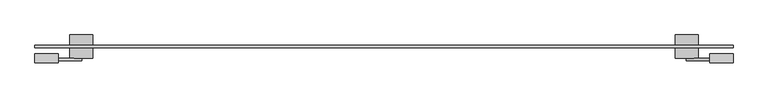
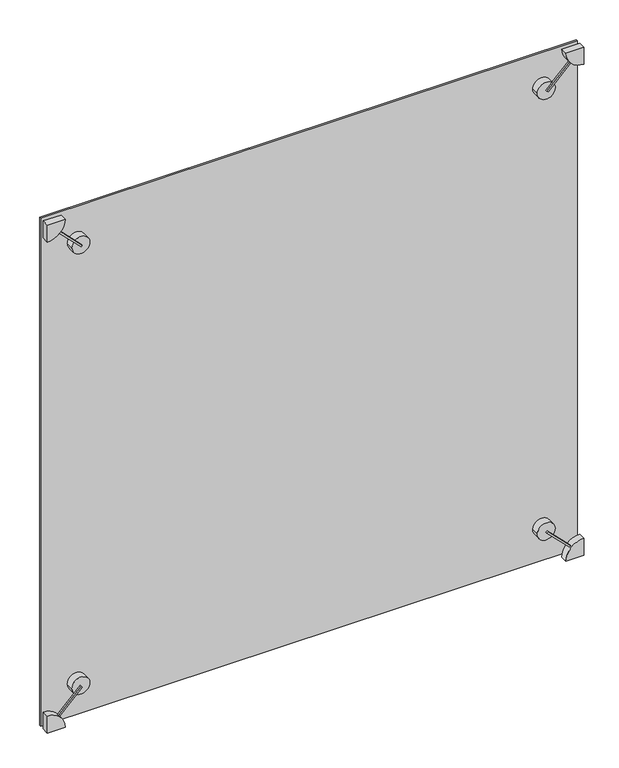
"""IFC4 building model written with IfcOpenShell, lengths in millimetres: plate geometry, 点爪式幕墙嵌板 : 点爪式幕墙嵌板."""

from ifc_helpers import new_model, si_unit, point, frame, frame_2d, origin, origin_with_axes, place, context, project, spatial, polyline, circle_curve, trimmed, segment, composite_curve, outline, extrude, source, transform, mapped, element, save
from ifc_brep_helpers import plane_surface, cylinder_surface, advanced_brep


def plate_63dfc3b5(model_context):
    return source(origin(), model_context, "Body", "SolidModel", [
        extrude(outline(polyline([(0.0, -10.0), (0.0, 0.0), (10.0, 0.0), (10.0, -10.0), (0.0, -10.0)])), frame((-1433.7667022, -60.0, 73.3043656), z_axis=(0.7071067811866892, 0.0, 0.7071067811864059), x_axis=(0.0, 1.0, 0.0)), (0.0, 0.0, 1.0), 181.331972),
        extrude(outline(composite_curve([segment(trimmed(circle_curve(frame_2d((0.0, -1500.0)), 100.0), [point((0.0, -1400.0))], [point((100.0, -1500.0))], False, "CARTESIAN"), True, "CONTINUOUS"), segment(polyline([(100.0, -1500.0), (0.0, -1500.0), (0.0, -1400.0)]), True, "CONTINUOUS")], self_intersect=False)), frame((0.0, -70.0, 0.0), z_axis=(0.0, 1.0, 0.0), x_axis=(0.0, 0.0, 1.0)), (0.0, 0.0, 1.0), 40.0),
        extrude(outline(composite_curve([segment(trimmed(circle_curve(frame_2d((199.0051024, -1300.9948976)), 50.0), [point((199.0051024, -1250.9948976))], [point((199.0051024, -1350.9948976))], False, "CARTESIAN"), True, "CONTINUOUS"), segment(trimmed(circle_curve(frame_2d((199.0051024, -1300.9948976)), 50.0), [point((199.0051024, -1350.9948976))], [point((199.0051024, -1250.9948976))], False, "CARTESIAN"), True, "CONTINUOUS")], self_intersect=False)), frame((0.0, -50.0, 0.0), z_axis=(0.0, 1.0, 0.0), x_axis=(0.0, 0.0, 1.0)), (0.0, 0.0, 1.0), 100.0),
        extrude(outline(polyline([(0.0, -181.3319719), (0.0, 0.0), (10.0, 0.0), (10.0, -181.3319719), (0.0, -181.3319719)])), frame((1298.4745674, -60.0, 194.4543648), z_axis=(0.7071067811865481, 0.0, 0.707106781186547), x_axis=(0.0, 1.0, 0.0)), (0.0, 0.0, 1.0), 10.0),
        extrude(outline(composite_curve([segment(polyline([(0.0, 1400.0), (0.0, 1500.0), (100.0, 1500.0)]), True, "CONTINUOUS"), segment(trimmed(circle_curve(frame_2d((0.0, 1500.0)), 100.0), [point((100.0, 1500.0))], [point((0.0, 1400.0))], False, "CARTESIAN"), True, "CONTINUOUS")], self_intersect=False)), frame((0.0, -70.0, 0.0), z_axis=(0.0, 1.0, 0.0), x_axis=(0.0, 0.0, 1.0)), (0.0, 0.0, 1.0), 40.0),
        extrude(outline(composite_curve([segment(trimmed(circle_curve(frame_2d((199.0051024, 1300.9948976)), 50.0), [point((199.0051024, 1250.9948976))], [point((199.0051024, 1350.9948976))], False, "CARTESIAN"), True, "CONTINUOUS"), segment(trimmed(circle_curve(frame_2d((199.0051024, 1300.9948976)), 50.0), [point((199.0051024, 1350.9948976))], [point((199.0051024, 1250.9948976))], False, "CARTESIAN"), True, "CONTINUOUS")], self_intersect=False)), frame((0.0, -50.0, 0.0), z_axis=(0.0, 1.0, 0.0), x_axis=(0.0, 0.0, 1.0)), (0.0, 0.0, 1.0), 100.0),
        extrude(outline(polyline([(0.0, -181.3319719), (0.0, 0.0), (10.0, 0.0), (10.0, -181.3319719), (0.0, -181.3319719)])), frame((-1433.7667022, -60.0, 2926.6956344), z_axis=(0.7071067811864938, 0.0, 0.7071067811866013), x_axis=(0.0, 1.0, 0.0)), (0.0, 0.0, 1.0), 10.0),
        extrude(outline(composite_curve([segment(polyline([(3000.0, -1400.0), (3000.0, -1500.0), (2900.0, -1500.0)]), True, "CONTINUOUS"), segment(trimmed(circle_curve(frame_2d((3000.0, -1500.0)), 100.0), [point((2900.0, -1500.0))], [point((3000.0, -1400.0))], False, "CARTESIAN"), True, "CONTINUOUS")], self_intersect=False)), frame((0.0, -70.0, 0.0), z_axis=(0.0, 1.0, 0.0), x_axis=(0.0, 0.0, 1.0)), (0.0, 0.0, 1.0), 40.0),
        extrude(outline(composite_curve([segment(trimmed(circle_curve(frame_2d((2800.9948976, -1300.9948976)), 50.0), [point((2800.9948976, -1250.9948976))], [point((2800.9948976, -1350.9948976))], False, "CARTESIAN"), True, "CONTINUOUS"), segment(trimmed(circle_curve(frame_2d((2800.9948976, -1300.9948976)), 50.0), [point((2800.9948976, -1350.9948976))], [point((2800.9948976, -1250.9948976))], False, "CARTESIAN"), True, "CONTINUOUS")], self_intersect=False)), frame((0.0, -50.0, 0.0), z_axis=(0.0, 1.0, 0.0), x_axis=(0.0, 0.0, 1.0)), (0.0, 0.0, 1.0), 100.0),
        advanced_brep(
        [(1250.9948976, -50.0, 2800.9948976), (1350.9948976, -50.0, 2800.9948976), (1339.7085497, -50.0, 2832.6374819), (1305.5456352, -50.0, 2798.4745674), (1298.4745674, -50.0, 2805.5456352), (1332.6374819, -50.0, 2839.7085497), (1250.9948976, 50.0, 2800.9948976), (1350.9948976, 50.0, 2800.9948976), (1298.4745674, -60.0, 2805.5456352), (1305.5456352, -60.0, 2798.4745674), (1432.9132994, -60.0, 2925.8422316), (1425.8422316, -60.0, 2932.9132994), (1425.8422316, -50.0, 2932.9132994), (1432.9132994, -50.0, 2925.8422316), (1400.0, -70.0, 3000.0), (1500.0, -70.0, 2900.0), (1500.0, -70.0, 3000.0), (1400.0, -30.0, 3000.0), (1500.0, -30.0, 3000.0), (1500.0, -30.0, 2900.0)],
        [
            (0, 1, circle_curve(frame((1300.9948976, -50.0, 2800.9948976), z_axis=(0.0, -1.0, 0.0), x_axis=(1.0, 0.0, 0.0)), 50.0)),
            (1, 2, circle_curve(frame((1300.9948976, -50.0, 2800.9948976), z_axis=(0.0, -1.0, 0.0), x_axis=(1.0, 0.0, 0.0)), 50.0)),
            (2, 3),
            (3, 4),
            (4, 5),
            (5, 0, circle_curve(frame((1300.9948976, -50.0, 2800.9948976), z_axis=(0.0, -1.0, 0.0), x_axis=(1.0, 0.0, 0.0)), 50.0)),
            (6, 7, circle_curve(frame((1300.9948976, 50.0, 2800.9948976), z_axis=(0.0, 1.0, 0.0), x_axis=(1.0, 0.0, 0.0)), 50.0)),
            (7, 6, circle_curve(frame((1300.9948976, 50.0, 2800.9948976), z_axis=(0.0, 1.0, 0.0), x_axis=(1.0, 0.0, 0.0)), 50.0)),
            (0, 6),
            (7, 1),
            (5, 2, circle_curve(frame((1300.9948976, -50.0, 2800.9948976), z_axis=(0.0, 1.0, 0.0), x_axis=(1.0, 0.0, 0.0)), 50.0)),
            (8, 9),
            (9, 10),
            (10, 11, circle_curve(frame((1500.0, -60.0, 3000.0), z_axis=(0.0, 1.0, 0.0), x_axis=(1.0, 0.0, 0.0)), 100.0)),
            (11, 8),
            (5, 12),
            (12, 13, circle_curve(frame((1500.0, -50.0, 3000.0), z_axis=(0.0, -1.0, 0.0), x_axis=(1.0, 0.0, 0.0)), 100.0)),
            (13, 2),
            (4, 8),
            (11, 12),
            (3, 9),
            (13, 10),
            (14, 15, circle_curve(frame((1500.0, -70.0, 3000.0), z_axis=(0.0, -1.0, 0.0), x_axis=(1.0, 0.0, 0.0)), 100.0)),
            (15, 16),
            (16, 14),
            (17, 18),
            (18, 19),
            (19, 17, circle_curve(frame((1500.0, -30.0, 3000.0), z_axis=(0.0, 1.0, 0.0), x_axis=(1.0, 0.0, 0.0)), 100.0)),
            (14, 17),
            (19, 15),
            (18, 16),
        ],
        [
            plane_surface(frame((1350.9948976, -50.0, 2800.9948976), z_axis=(0.0, -1.0, 0.0), x_axis=(0.0, 0.0, 1.0))),
            plane_surface(frame((1350.9948976, 50.0, 2800.9948976), z_axis=(0.0, 1.0, 0.0), x_axis=(0.0, 0.0, -1.0))),
            cylinder_surface(frame((1300.9948976, 50.0, 2800.9948976), z_axis=(0.0, -1.0, 0.0), x_axis=(1.0, 0.0, 0.0)), 50.0),
            plane_surface(frame((1298.4745674, -60.0, 2805.5456352), z_axis=(0.0, -1.0000000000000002, 0.0), x_axis=(-0.7071067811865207, 0.0, -0.7071067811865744))),
            plane_surface(frame((1298.4745674, -50.0, 2805.5456352), z_axis=(0.0, 1.0000000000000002, 0.0), x_axis=(0.7071067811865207, 0.0, 0.7071067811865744))),
            plane_surface(frame((1426.6956344, -60.0, 2933.7667022), z_axis=(-0.7071067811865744, 0.0, 0.7071067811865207), x_axis=(0.0, 1.0, 0.0))),
            plane_surface(frame((1298.4745674, -60.0, 2805.5456352), z_axis=(-0.7071067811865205, 0.0, -0.7071067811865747), x_axis=(0.0, 1.0, 0.0))),
            plane_surface(frame((1305.5456352, -60.0, 2798.4745674), z_axis=(0.7071067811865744, 0.0, -0.7071067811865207), x_axis=(0.0, 1.0, 0.0))),
            plane_surface(frame((1600.0, -70.0, 3000.0), z_axis=(0.0, -1.0, 0.0), x_axis=(0.0, 0.0, 1.0))),
            plane_surface(frame((1600.0, -30.0, 3000.0), z_axis=(0.0, 1.0, 0.0), x_axis=(0.0, 0.0, -1.0))),
            cylinder_surface(frame((1500.0, -30.0, 3000.0), z_axis=(0.0, -1.0, 0.0), x_axis=(1.0, 0.0, 0.0)), 100.0),
            plane_surface(frame((1500.0, -70.0, 2900.0), z_axis=(1.0, 0.0, 0.0), x_axis=(0.0, 1.0, 0.0))),
            plane_surface(frame((1500.0, -70.0, 3000.0), z_axis=(0.0, 0.0, 1.0), x_axis=(0.0, 1.0, 0.0))),
        ],
        [
            (0, [[1, 2, 3, 4, 5, 6]]),
            (1, [[7, 8]]),
            (2, [[-1, 9, -8, 10]]),
            (2, [[-7, -9, -6, 11, -2, -10]]),
            (3, [[12, 13, 14, 15]]),
            (4, [[-11, 16, 17, 18]]),
            (5, [[19, -15, 20, -16, -5]]),
            (6, [[-12, -19, -4, 21]]),
            (7, [[-21, -3, -18, 22, -13]]),
            (8, [[23, 24, 25]]),
            (9, [[26, 27, 28]]),
            (10, [[-23, 29, -28, 30], [-14, -22, -17, -20]]),
            (11, [[-24, -30, -27, 31]]),
            (12, [[-25, -31, -26, -29]]),
        ],
    ),
        extrude(outline(polyline([(1500.0, 5.0), (1500.0, -5.0), (-1500.0, -5.0), (-1500.0, 5.0), (1500.0, 5.0)])), origin_with_axes(), (0.0, 0.0, 1.0), 3000.0),
    ])


if __name__ == "__main__":
    model = new_model("IFC4")
    model_context = context("Model", 3, world=origin())
    ifc_project = project(units=[si_unit("LENGTHUNIT", "METRE", prefix="MILLI")], contexts=[model_context])
    site = spatial("IfcSite", under=ifc_project)
    building = spatial("IfcBuilding", under=site)
    placement = place(None, origin())
    plate_shape = plate_63dfc3b5(model_context)
    element("IfcPlate", 1, ObjectType="点爪式幕墙嵌板 : 点爪式幕墙嵌板", at=placement, inside=building, context=model_context, shape_type="MappedRepresentation", body=[
        mapped(plate_shape, transform((0.0, 0.0, 0.0), x_axis=(1.0, 0.0, 0.0), y_axis=(0.0, 1.0, 0.0), z_axis=(0.0, 0.0, 1.0))),
    ])
    save(model, "model.ifc")
